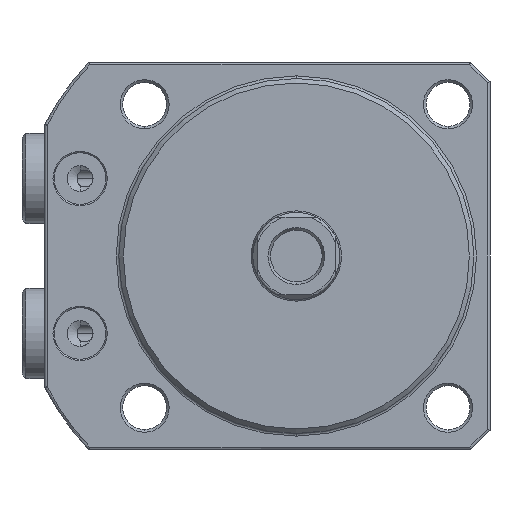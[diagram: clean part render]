
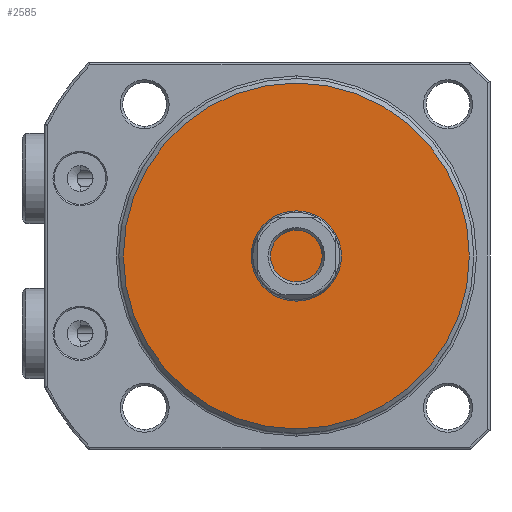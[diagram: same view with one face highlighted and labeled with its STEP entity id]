
A CAD part, front view. The second image highlights one B-rep face of the part: STEP entity #2585.
In plain terms, the highlighted planar face has unit normal (0, -1, 0) as drawn and (-1, 0, 0) by its records, which use the part's own axes.
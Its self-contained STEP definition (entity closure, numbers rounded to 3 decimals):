
#2585=ADVANCED_FACE('',(#3084),#2969,.F.);
#2969=PLANE('',#7562);
#3084=FACE_OUTER_BOUND('',#3439,.T.);
#3439=EDGE_LOOP('',(#3866));
#3866=ORIENTED_EDGE('',*,*,#6244,.T.);
#5681=VERTEX_POINT('',#10309);
#6244=EDGE_CURVE('',#5681,#5681,#7152,.T.);
#7152=CIRCLE('',#7561,26.8);
#7561=AXIS2_PLACEMENT_3D('',#10308,#8357,#8358);
#7562=AXIS2_PLACEMENT_3D('',#10310,#8359,#8360);
#8357=DIRECTION('',(-1.,0.,0.));
#8358=DIRECTION('',(0.,0.,-1.));
#8359=DIRECTION('',(1.,0.,0.));
#8360=DIRECTION('',(0.,0.,1.));
#10308=CARTESIAN_POINT('',(0.,0.,0.));
#10309=CARTESIAN_POINT('',(0.,0.,-26.8));
#10310=CARTESIAN_POINT('',(0.,0.,0.));
